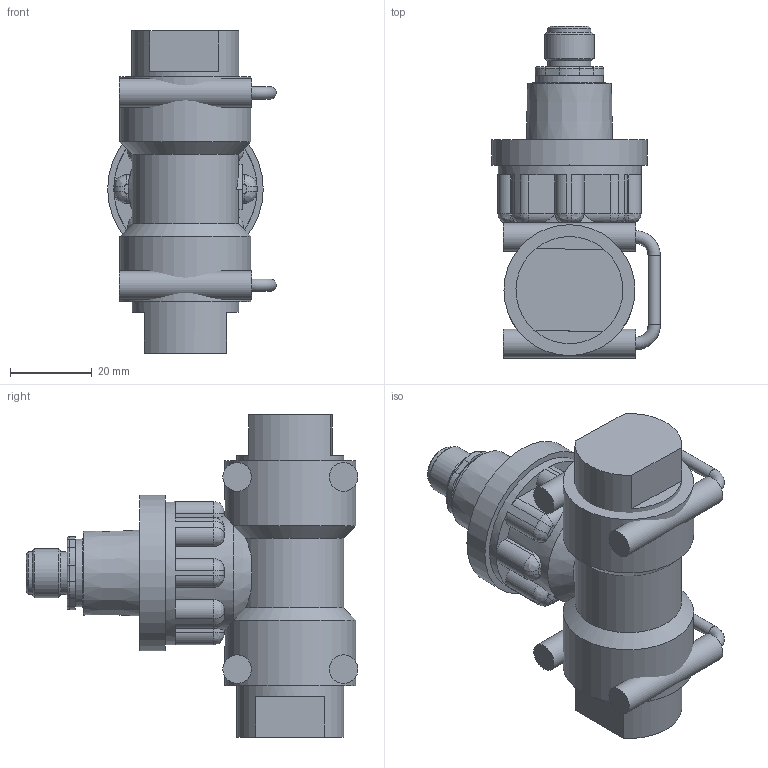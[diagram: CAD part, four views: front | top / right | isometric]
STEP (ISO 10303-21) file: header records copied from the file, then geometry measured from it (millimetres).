
FILE_DESCRIPTION(/* description */ (''),/* implementation_level */ '2;1');
FILE_NAME(/* name */ 'T:\Drawings\Customer Data\3D Customer Models\FT2_0.25_Fittings_Shrinkwrap.stp',/* time_stamp */ '2016-10-12T14:33:33+01:00',/* author */ ('Stevem'),/* organization */ (''),/* preprocessor_version */ 'ST-DEVELOPER v15.2',/* originating_system */ 'Autodesk Inventor 2014',/* authorisation */ '');
FILE_SCHEMA (('AUTOMOTIVE_DESIGN { 1 0 10303 214 3 1 1 }'));
Length unit declared in the file: inch
Products named in the file (1): FT2_0.25_Fittings_Shrinkwrap
Bounding box: 41.2 x 81.1 x 78.85 mm (x, y, z)
Surface area: 21880 mm2 (no closed solid volume)
Topology: 0 solids, 18 shells, 182 faces, 444 edges, 280 vertices
Faces by surface type: plane 76, cylinder 64, torus 18, bspline 16, cone 8
Full cylindrical faces by diameter (mm): 3 x2, 7 x4, 10.5 x2, 12 x1, 16.45 x1, 26.15 x2, 28 x1, 32 x2, 35 x1, 38 x1
Entity records: 5680 total; most frequent: CARTESIAN_POINT 1282, DIRECTION 932, ORIENTED_EDGE 781, EDGE_CURVE 413, AXIS2_PLACEMENT_3D 382, VERTEX_POINT 274, CIRCLE 213, EDGE_LOOP 207
